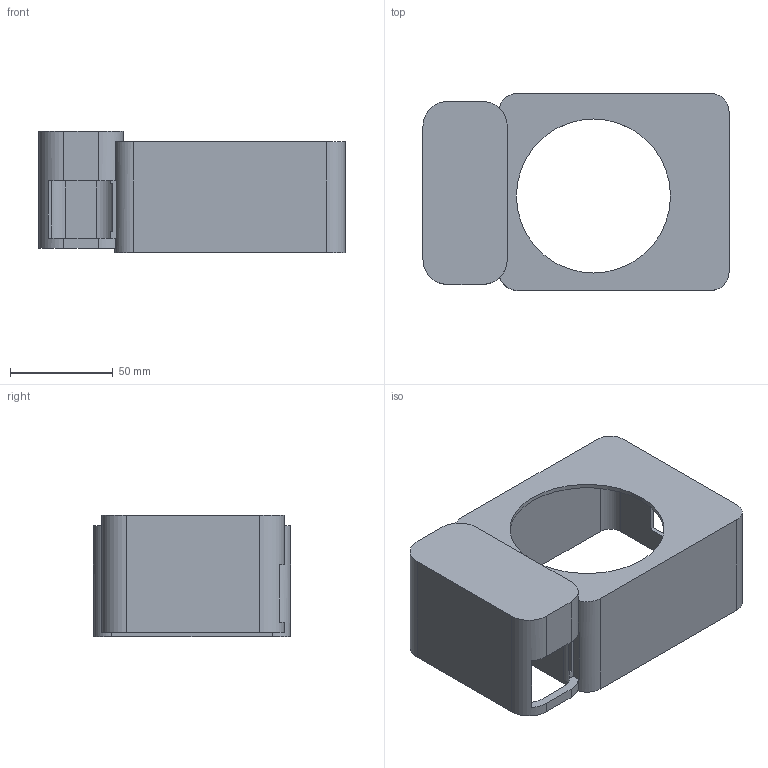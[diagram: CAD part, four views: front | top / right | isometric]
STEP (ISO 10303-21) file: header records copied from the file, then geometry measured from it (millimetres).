
FILE_DESCRIPTION(('Open CASCADE Model'),'2;1');
FILE_NAME('Open CASCADE Shape Model','2026-11-05T01:47:41',('Author'),( 'Open CASCADE'),'Open CASCADE STEP processor 7.8','Open CASCADE 7.8' ,'Unknown');
FILE_SCHEMA(('AUTOMOTIVE_DESIGN { 1 0 10303 214 1 1 1 1 }'));
Length unit declared in the file: millimetre
Products named in the file (1): Open CASCADE STEP translator 7.8 1
Bounding box: 149 x 96 x 59 mm (x, y, z)
Volume: 93790 mm3; surface area: 74097.1 mm2
Topology: 1 solids, 1 shells, 63 faces, 186 edges, 124 vertices
Faces by surface type: plane 43, cylinder 20
Full cylindrical faces by diameter (mm): 4 x1, 5.6 x1, 75 x1
Entity records: 4682 total; most frequent: CARTESIAN_POINT 974, DIRECTION 704, LINE 446, VECTOR 446, ORIENTED_EDGE 372, PCURVE 372, DEFINITIONAL_REPRESENTATION 372, EDGE_CURVE 186
